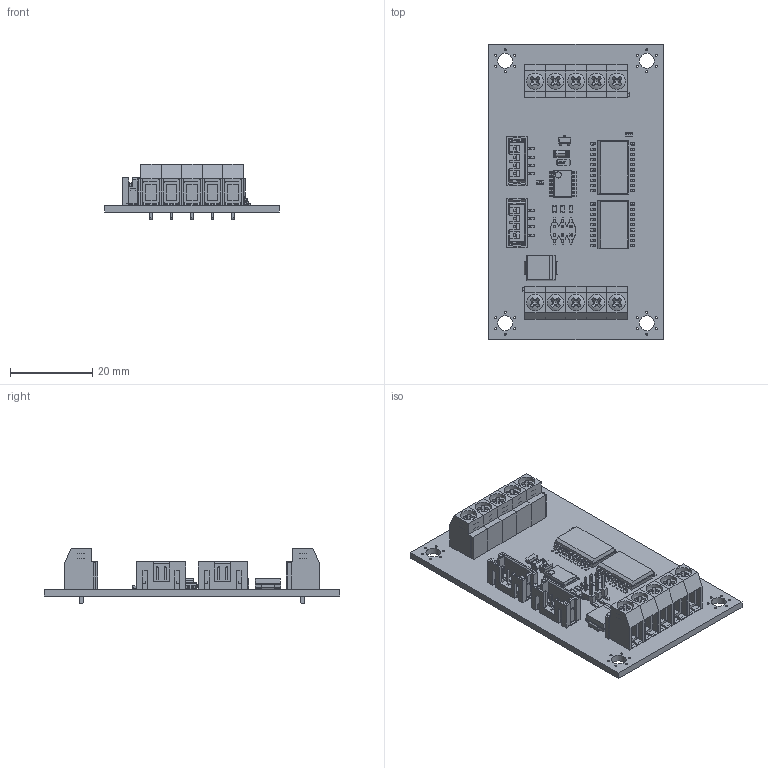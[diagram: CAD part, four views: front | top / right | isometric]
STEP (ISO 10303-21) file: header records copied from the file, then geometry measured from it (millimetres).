
FILE_DESCRIPTION(('Open CASCADE Model'),'2;1');
FILE_NAME('Open CASCADE Shape Model','2025-02-28T20:47:42',('Author'),( 'Open CASCADE'),'Open CASCADE STEP processor 6.8','Open CASCADE 6.8' ,'Unknown');
FILE_SCHEMA(('AUTOMOTIVE_DESIGN { 1 0 10303 214 1 1 1 1 }'));
Length unit declared in the file: millimetre
Products named in the file (42): PCB; Board; D2; SS3H10; U3; ULN2803ADWR; U2; SN74HC240DWR; U1; PCF8574APWR; R3; MCR03; R2; R1; Q1; FDN306P; J5; DT-126VP-5P_ASM3; Unnamed; DT-126VP-1P_001; DT-126VP-1P_002; Unnamed001; DT-126VP-2P_001; DT-126VP-1P_003; J4; 126104ST; BODY; PIN; NAIL; J3; CH71062M100-0P; 12P_6; SMT_PIN-PC; J2; J1; D1; PMLL4148L; C3; TCA1A106M8R; C2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
Assembly tree (55 placements, depth 5):
  PCB
    Board
    D2
      SS3H10
    U3
      ULN2803ADWR
    U2
      SN74HC240DWR
    U1
      PCF8574APWR
    R3
      MCR03
    R2
      MCR03
    R1
      MCR03
    Q1
      FDN306P
    J5
      DT-126VP-5P_ASM3
        Unnamed
          DT-126VP-1P_001
          DT-126VP-1P_002
        Unnamed001
          DT-126VP-2P_001
          DT-126VP-1P_003
    J4
      126104ST
        BODY
        PIN  x4
        NAIL  x2
    J3
      CH71062M100-0P
        12P_6
        SMT_PIN-PC  x6
    J2
      126104ST
        BODY
        PIN  x4
        NAIL  x2
    J1
      DT-126VP-5P_ASM3
        Unnamed
          DT-126VP-1P_001
          DT-126VP-1P_002
        Unnamed001
          DT-126VP-2P_001
          DT-126VP-1P_003
    D1
      PMLL4148L
    C3
      TCA1A106M8R
    C2
      GRM188
    C1
      GRM188
Bounding box: 42.5 x 72 x 13.5 mm (x, y, z)
Volume: 8801 mm3; surface area: 16155.2 mm2
Topology: 66 solids, 66 shells, 4415 faces, 11244 edges, 6904 vertices
Faces by surface type: plane 2347, cylinder 1408, torus 532, sphere 54, cone 50, bspline 14, revolution 10
Full cylindrical faces by diameter (mm): 0.5 x24, 1.5 x10, 2.5 x10, 3.6 x4, 4 x10, 5 x10
Entity records: 118850 total; most frequent: DIRECTION 17931, CARTESIAN_POINT 17798, ORIENTED_EDGE 16378, EDGE_CURVE 8189, AXIS2_PLACEMENT_3D 6527, VERTEX_POINT 4970, LINE 4872, VECTOR 4872
